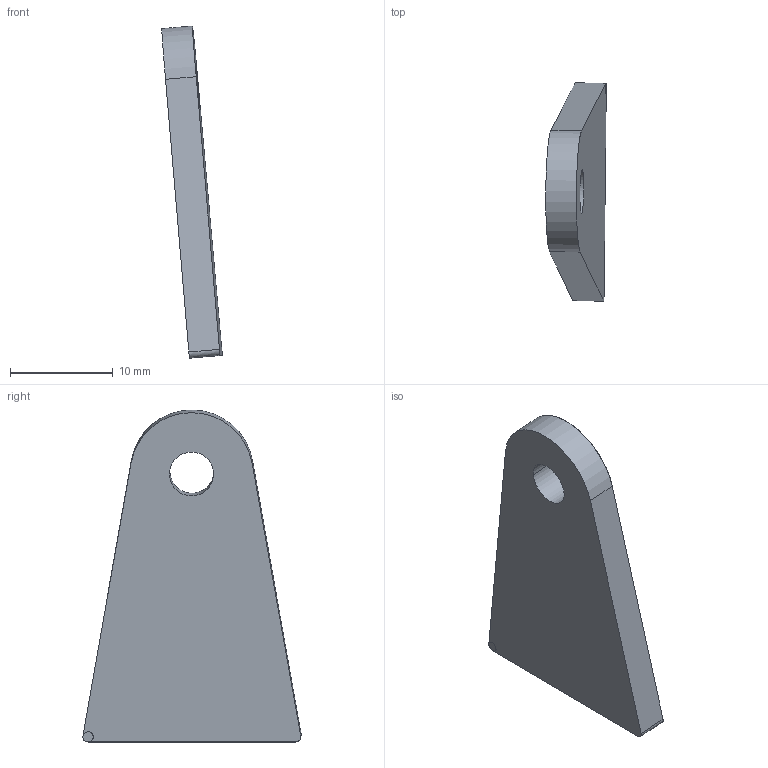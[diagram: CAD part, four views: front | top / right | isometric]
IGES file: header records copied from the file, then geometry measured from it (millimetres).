
Start section: START RECORD GO HERE.
Global section: file name: EN_04008 (chape 3).igs; native system: IBM CATIA IGES - CATIA Version 5 Release 19 ; preprocessor: CATIA Version 5 Release 19 ; author: mik75; organization: LAPTOP-SUH344G9; date: 20200115.172707; units: millimetre
Bounding box: 5.9 x 21.27 x 32.37 mm (x, y, z)
Surface area: 1294.5 mm2 (no closed solid volume)
Topology: 0 solids, 0 shells, 10 faces, 50 edges, 48 vertices
Faces by surface type: revolution 5, plane 5
